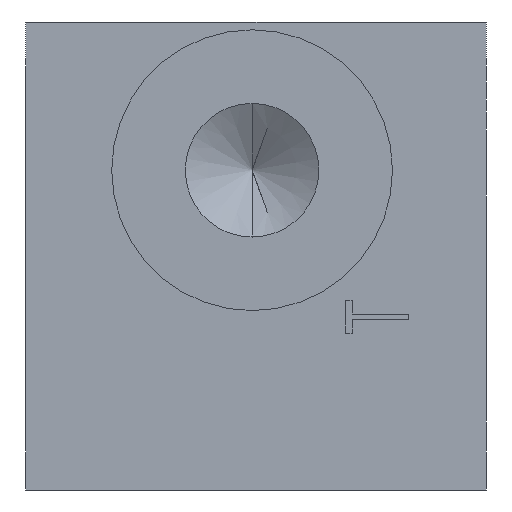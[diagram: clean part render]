
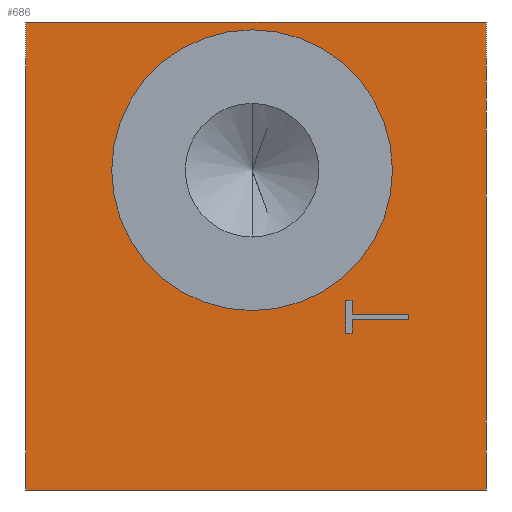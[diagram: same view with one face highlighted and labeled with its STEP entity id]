
A CAD part, left-side view. The second image highlights one B-rep face of the part: STEP entity #686.
In plain terms, the highlighted planar face has unit normal (-1, 0, 0).
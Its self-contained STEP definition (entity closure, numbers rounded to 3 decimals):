
#34 = ORIENTED_EDGE ( 'NONE', *, *, #310, .T. ) ;
#111 = VECTOR ( 'NONE', #4467, 1000. ) ;
#226 = EDGE_CURVE ( 'NONE', #905, #3303, #390, .T. ) ;
#307 = VERTEX_POINT ( 'NONE', #3624 ) ;
#310 = EDGE_CURVE ( 'NONE', #307, #4709, #5042, .T. ) ;
#334 = DIRECTION ( 'NONE',  ( 0., 1., 0. ) ) ;
#390 = LINE ( 'NONE', #591, #4756 ) ;
#427 = CARTESIAN_POINT ( 'NONE',  ( 0., -14.75, 15. ) ) ;
#470 = VERTEX_POINT ( 'NONE', #3969 ) ;
#497 = ORIENTED_EDGE ( 'NONE', *, *, #1591, .F. ) ;
#526 = CARTESIAN_POINT ( 'NONE',  ( 0., -9.75, -4.077 ) ) ;
#532 = ORIENTED_EDGE ( 'NONE', *, *, #1490, .T. ) ;
#591 = CARTESIAN_POINT ( 'NONE',  ( 0., -9.75, -3.718 ) ) ;
#611 = LINE ( 'NONE', #526, #3865 ) ;
#686 = ADVANCED_FACE ( 'NONE', ( #1267, #4532, #3403 ), #2300, .T. ) ;
#693 = DIRECTION ( 'NONE',  ( 0., 1., 0. ) ) ;
#816 = LINE ( 'NONE', #2167, #5191 ) ;
#864 = VECTOR ( 'NONE', #4534, 1000. ) ;
#889 = VECTOR ( 'NONE', #5317, 1000. ) ;
#905 = VERTEX_POINT ( 'NONE', #1415 ) ;
#1024 = VERTEX_POINT ( 'NONE', #3113 ) ;
#1074 = DIRECTION ( 'NONE',  ( -1., 0., 0. ) ) ;
#1078 = CARTESIAN_POINT ( 'NONE',  ( 0., 0.25, 5.5 ) ) ;
#1098 = CARTESIAN_POINT ( 'NONE',  ( 0., -6.16, -4.077 ) ) ;
#1120 = ORIENTED_EDGE ( 'NONE', *, *, #2617, .F. ) ;
#1143 = EDGE_CURVE ( 'NONE', #5023, #2549, #2633, .T. ) ;
#1267 = FACE_BOUND ( 'NONE', #1307, .T. ) ;
#1307 = EDGE_LOOP ( 'NONE', ( #1749, #1120 ) ) ;
#1326 = AXIS2_PLACEMENT_3D ( 'NONE', #3632, #1074, #4054 ) ;
#1386 = LINE ( 'NONE', #1098, #111 ) ;
#1415 = CARTESIAN_POINT ( 'NONE',  ( 0., -9.75, -3.718 ) ) ;
#1490 = EDGE_CURVE ( 'NONE', #1988, #905, #1963, .T. ) ;
#1522 = DIRECTION ( 'NONE',  ( 0., 0., 1. ) ) ;
#1590 = CARTESIAN_POINT ( 'NONE',  ( 0., -5.75, -4.949 ) ) ;
#1591 = EDGE_CURVE ( 'NONE', #1024, #5023, #3168, .T. ) ;
#1666 = VECTOR ( 'NONE', #693, 1000. ) ;
#1688 = EDGE_LOOP ( 'NONE', ( #1921, #3230, #3349, #497 ) ) ;
#1749 = ORIENTED_EDGE ( 'NONE', *, *, #5115, .F. ) ;
#1760 = CARTESIAN_POINT ( 'NONE',  ( 0., -14.75, -15. ) ) ;
#1813 = DIRECTION ( 'NONE',  ( 0., 1., 0. ) ) ;
#1848 = EDGE_CURVE ( 'NONE', #470, #307, #1386, .T. ) ;
#1864 = DIRECTION ( 'NONE',  ( 0., 0., 1. ) ) ;
#1921 = ORIENTED_EDGE ( 'NONE', *, *, #2081, .F. ) ;
#1931 = CARTESIAN_POINT ( 'NONE',  ( 0., 0.25, -3.5 ) ) ;
#1933 = CARTESIAN_POINT ( 'NONE',  ( 0., -6.16, -2.846 ) ) ;
#1949 = CIRCLE ( 'NONE', #2424, 9. ) ;
#1963 = LINE ( 'NONE', #3414, #2962 ) ;
#1988 = VERTEX_POINT ( 'NONE', #4856 ) ;
#2081 = EDGE_CURVE ( 'NONE', #4752, #1024, #3573, .T. ) ;
#2167 = CARTESIAN_POINT ( 'NONE',  ( 0., -6.16, -2.846 ) ) ;
#2211 = ORIENTED_EDGE ( 'NONE', *, *, #2740, .T. ) ;
#2244 = VERTEX_POINT ( 'NONE', #2470 ) ;
#2300 = PLANE ( 'NONE',  #2575 ) ;
#2348 = DIRECTION ( 'NONE',  ( 0., 0., 1. ) ) ;
#2424 = AXIS2_PLACEMENT_3D ( 'NONE', #1078, #4058, #1522 ) ;
#2470 = CARTESIAN_POINT ( 'NONE',  ( 0., 0.25, 14.5 ) ) ;
#2493 = CARTESIAN_POINT ( 'NONE',  ( 0., -5.75, -2.846 ) ) ;
#2549 = VERTEX_POINT ( 'NONE', #4862 ) ;
#2558 = VECTOR ( 'NONE', #3716, 1000. ) ;
#2575 = AXIS2_PLACEMENT_3D ( 'NONE', #2736, #5258, #1864 ) ;
#2617 = EDGE_CURVE ( 'NONE', #5178, #2244, #1949, .T. ) ;
#2633 = LINE ( 'NONE', #427, #889 ) ;
#2736 = CARTESIAN_POINT ( 'NONE',  ( 0., 14.75, -15. ) ) ;
#2740 = EDGE_CURVE ( 'NONE', #3398, #1988, #816, .T. ) ;
#2776 = VECTOR ( 'NONE', #3346, 1000. ) ;
#2962 = VECTOR ( 'NONE', #5514, 1000. ) ;
#3060 = EDGE_CURVE ( 'NONE', #5370, #3398, #3891, .T. ) ;
#3113 = CARTESIAN_POINT ( 'NONE',  ( 0., 14.75, -15. ) ) ;
#3151 = LINE ( 'NONE', #1590, #864 ) ;
#3168 = LINE ( 'NONE', #3206, #5421 ) ;
#3206 = CARTESIAN_POINT ( 'NONE',  ( 0., 14.75, 15. ) ) ;
#3230 = ORIENTED_EDGE ( 'NONE', *, *, #3620, .F. ) ;
#3259 = ORIENTED_EDGE ( 'NONE', *, *, #226, .T. ) ;
#3303 = VERTEX_POINT ( 'NONE', #5140 ) ;
#3346 = DIRECTION ( 'NONE',  ( 0., -1., 0. ) ) ;
#3349 = ORIENTED_EDGE ( 'NONE', *, *, #1143, .F. ) ;
#3398 = VERTEX_POINT ( 'NONE', #1933 ) ;
#3403 = FACE_BOUND ( 'NONE', #3824, .T. ) ;
#3414 = CARTESIAN_POINT ( 'NONE',  ( 0., -6.16, -3.718 ) ) ;
#3573 = LINE ( 'NONE', #5436, #4662 ) ;
#3620 = EDGE_CURVE ( 'NONE', #2549, #4752, #3695, .T. ) ;
#3624 = CARTESIAN_POINT ( 'NONE',  ( 0., -6.16, -4.949 ) ) ;
#3632 = CARTESIAN_POINT ( 'NONE',  ( 0., 0.25, 5.5 ) ) ;
#3695 = LINE ( 'NONE', #4963, #2558 ) ;
#3716 = DIRECTION ( 'NONE',  ( 0., 0., -1. ) ) ;
#3824 = EDGE_LOOP ( 'NONE', ( #4122, #4766, #34, #5179, #4385, #2211, #532, #3259 ) ) ;
#3865 = VECTOR ( 'NONE', #1813, 1000. ) ;
#3882 = DIRECTION ( 'NONE',  ( 0., 0., -1. ) ) ;
#3891 = LINE ( 'NONE', #2493, #2776 ) ;
#3894 = CARTESIAN_POINT ( 'NONE',  ( 0., 14.75, 15. ) ) ;
#3916 = CARTESIAN_POINT ( 'NONE',  ( 0., -5.75, -4.949 ) ) ;
#3969 = CARTESIAN_POINT ( 'NONE',  ( 0., -6.16, -4.077 ) ) ;
#4045 = CARTESIAN_POINT ( 'NONE',  ( 0., -6.16, -4.949 ) ) ;
#4054 = DIRECTION ( 'NONE',  ( 0., 0., 1. ) ) ;
#4058 = DIRECTION ( 'NONE',  ( -1., 0., 0. ) ) ;
#4122 = ORIENTED_EDGE ( 'NONE', *, *, #4791, .T. ) ;
#4385 = ORIENTED_EDGE ( 'NONE', *, *, #3060, .T. ) ;
#4467 = DIRECTION ( 'NONE',  ( 0., 0., -1. ) ) ;
#4532 = FACE_OUTER_BOUND ( 'NONE', #1688, .T. ) ;
#4534 = DIRECTION ( 'NONE',  ( 0., 0., 1. ) ) ;
#4584 = EDGE_CURVE ( 'NONE', #4709, #5370, #3151, .T. ) ;
#4662 = VECTOR ( 'NONE', #334, 1000. ) ;
#4709 = VERTEX_POINT ( 'NONE', #3916 ) ;
#4752 = VERTEX_POINT ( 'NONE', #1760 ) ;
#4756 = VECTOR ( 'NONE', #5347, 1000. ) ;
#4766 = ORIENTED_EDGE ( 'NONE', *, *, #1848, .T. ) ;
#4791 = EDGE_CURVE ( 'NONE', #3303, #470, #611, .T. ) ;
#4856 = CARTESIAN_POINT ( 'NONE',  ( 0., -6.16, -3.718 ) ) ;
#4862 = CARTESIAN_POINT ( 'NONE',  ( 0., -14.75, 15. ) ) ;
#4963 = CARTESIAN_POINT ( 'NONE',  ( 0., -14.75, 15. ) ) ;
#4985 = CIRCLE ( 'NONE', #1326, 9. ) ;
#5023 = VERTEX_POINT ( 'NONE', #3894 ) ;
#5042 = LINE ( 'NONE', #4045, #1666 ) ;
#5115 = EDGE_CURVE ( 'NONE', #2244, #5178, #4985, .T. ) ;
#5140 = CARTESIAN_POINT ( 'NONE',  ( 0., -9.75, -4.077 ) ) ;
#5178 = VERTEX_POINT ( 'NONE', #1931 ) ;
#5179 = ORIENTED_EDGE ( 'NONE', *, *, #4584, .T. ) ;
#5191 = VECTOR ( 'NONE', #3882, 1000. ) ;
#5258 = DIRECTION ( 'NONE',  ( -1., 0., 0. ) ) ;
#5317 = DIRECTION ( 'NONE',  ( 0., -1., 0. ) ) ;
#5347 = DIRECTION ( 'NONE',  ( 0., 0., -1. ) ) ;
#5370 = VERTEX_POINT ( 'NONE', #5390 ) ;
#5390 = CARTESIAN_POINT ( 'NONE',  ( 0., -5.75, -2.846 ) ) ;
#5421 = VECTOR ( 'NONE', #2348, 1000. ) ;
#5436 = CARTESIAN_POINT ( 'NONE',  ( 0., -14.75, -15. ) ) ;
#5514 = DIRECTION ( 'NONE',  ( 0., -1., 0. ) ) ;
